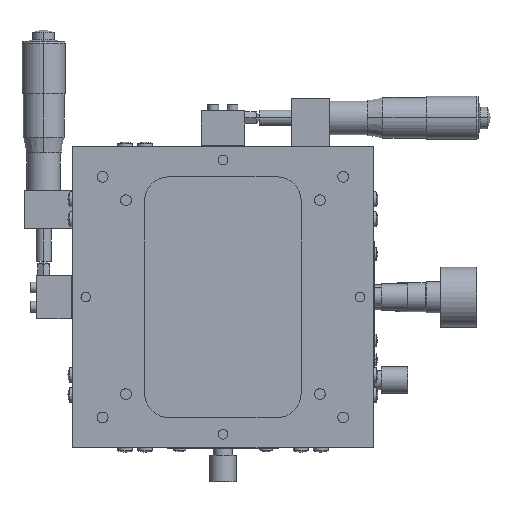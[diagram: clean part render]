
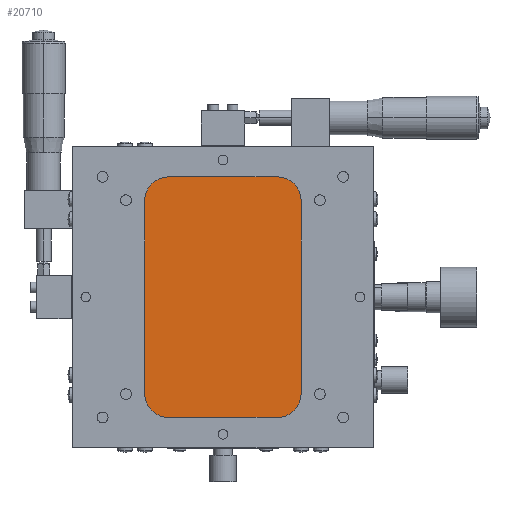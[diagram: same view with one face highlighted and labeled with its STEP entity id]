
A CAD part, front view. The second image highlights one B-rep face of the part: STEP entity #20710.
In plain terms, the highlighted planar face has unit normal (0, -1, 0).
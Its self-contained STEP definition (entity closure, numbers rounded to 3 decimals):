
#1589 = EDGE_CURVE ( 'NONE', #24473, #24574, #24670, .T. ) ;
#1590 = EDGE_CURVE ( 'NONE', #24574, #24220, #13912, .T. ) ;
#1591 = EDGE_CURVE ( 'NONE', #24220, #13616, #24676, .T. ) ;
#1592 = EDGE_CURVE ( 'NONE', #13616, #24311, #13915, .T. ) ;
#1593 = EDGE_CURVE ( 'NONE', #24311, #24600, #24682, .T. ) ;
#1594 = EDGE_CURVE ( 'NONE', #24600, #24246, #13918, .T. ) ;
#1595 = EDGE_CURVE ( 'NONE', #24246, #24631, #24688, .T. ) ;
#1596 = EDGE_CURVE ( 'NONE', #24631, #24473, #13921, .T. ) ;
#6183 = CARTESIAN_POINT ( 'NONE',  ( -22.5, 0.5, -12.5 ) ) ;
#6210 = CARTESIAN_POINT ( 'NONE',  ( 22.5, 0.5, -112.5 ) ) ;
#6277 = CARTESIAN_POINT ( 'NONE',  ( 32.5, 0.5, -22.5 ) ) ;
#6428 = EDGE_LOOP ( 'NONE', ( #8719, #8811, #8576, #9237, #9136, #8797, #9095, #9216 ) ) ;
#8576 = ORIENTED_EDGE ( 'NONE', *, *, #1594, .F. ) ;
#8719 = ORIENTED_EDGE ( 'NONE', *, *, #1596, .F. ) ;
#8797 = ORIENTED_EDGE ( 'NONE', *, *, #1591, .F. ) ;
#8811 = ORIENTED_EDGE ( 'NONE', *, *, #1595, .F. ) ;
#9095 = ORIENTED_EDGE ( 'NONE', *, *, #1590, .F. ) ;
#9136 = ORIENTED_EDGE ( 'NONE', *, *, #1592, .F. ) ;
#9216 = ORIENTED_EDGE ( 'NONE', *, *, #1589, .F. ) ;
#9237 = ORIENTED_EDGE ( 'NONE', *, *, #1593, .F. ) ;
#9888 = AXIS2_PLACEMENT_3D ( 'NONE', #18355, #18361, #18362 ) ;
#13616 = VERTEX_POINT ( 'NONE', #22836 ) ;
#13911 = VECTOR ( 'NONE', #24675, 1000. ) ;
#13912 = CIRCLE ( 'NONE', #13916, 10. ) ;
#13914 = VECTOR ( 'NONE', #24681, 1000. ) ;
#13915 = CIRCLE ( 'NONE', #13919, 10. ) ;
#13916 = AXIS2_PLACEMENT_3D ( 'NONE', #24677, #24678, #24679 ) ;
#13917 = VECTOR ( 'NONE', #24687, 1000. ) ;
#13918 = CIRCLE ( 'NONE', #13922, 10. ) ;
#13919 = AXIS2_PLACEMENT_3D ( 'NONE', #24683, #24684, #24685 ) ;
#13920 = VECTOR ( 'NONE', #24693, 1000. ) ;
#13921 = CIRCLE ( 'NONE', #13925, 10. ) ;
#13922 = AXIS2_PLACEMENT_3D ( 'NONE', #24689, #24690, #24691 ) ;
#13925 = AXIS2_PLACEMENT_3D ( 'NONE', #24697, #24698, #24699 ) ;
#17202 = CARTESIAN_POINT ( 'NONE',  ( -32.5, 0.5, -102.5 ) ) ;
#17303 = CARTESIAN_POINT ( 'NONE',  ( -32.5, 0.5, -22.5 ) ) ;
#17329 = CARTESIAN_POINT ( 'NONE',  ( 32.5, 0.5, -102.5 ) ) ;
#17360 = CARTESIAN_POINT ( 'NONE',  ( -22.5, 0.5, -112.5 ) ) ;
#18355 = CARTESIAN_POINT ( 'NONE',  ( -22.5, 0.5, -102.5 ) ) ;
#18357 = FACE_OUTER_BOUND ( 'NONE', #6428, .T. ) ;
#18358 = PLANE ( 'NONE',  #9888 ) ;
#18361 = DIRECTION ( 'NONE',  ( 0., -1., 0. ) ) ;
#18362 = DIRECTION ( 'NONE',  ( 0., 0., 1. ) ) ;
#20710 = ADVANCED_FACE ( 'NONE', ( #18357 ), #18358, .T. ) ;
#22836 = CARTESIAN_POINT ( 'NONE',  ( 22.5, 0.5, -12.5 ) ) ;
#24220 = VERTEX_POINT ( 'NONE', #6183 ) ;
#24246 = VERTEX_POINT ( 'NONE', #6210 ) ;
#24311 = VERTEX_POINT ( 'NONE', #6277 ) ;
#24473 = VERTEX_POINT ( 'NONE', #17202 ) ;
#24574 = VERTEX_POINT ( 'NONE', #17303 ) ;
#24600 = VERTEX_POINT ( 'NONE', #17329 ) ;
#24631 = VERTEX_POINT ( 'NONE', #17360 ) ;
#24668 = CARTESIAN_POINT ( 'NONE',  ( -32.5, 0.5, -102.5 ) ) ;
#24670 = LINE ( 'NONE', #24668, #13911 ) ;
#24674 = CARTESIAN_POINT ( 'NONE',  ( 22.5, 0.5, -12.5 ) ) ;
#24675 = DIRECTION ( 'NONE',  ( 0., 0., 1. ) ) ;
#24676 = LINE ( 'NONE', #24674, #13914 ) ;
#24677 = CARTESIAN_POINT ( 'NONE',  ( -22.5, 0.5, -22.5 ) ) ;
#24678 = DIRECTION ( 'NONE',  ( 0., 1., 0. ) ) ;
#24679 = DIRECTION ( 'NONE',  ( 0., 0., 1. ) ) ;
#24680 = CARTESIAN_POINT ( 'NONE',  ( 32.5, 0.5, -102.5 ) ) ;
#24681 = DIRECTION ( 'NONE',  ( 1., 0., 0. ) ) ;
#24682 = LINE ( 'NONE', #24680, #13917 ) ;
#24683 = CARTESIAN_POINT ( 'NONE',  ( 22.5, 0.5, -22.5 ) ) ;
#24684 = DIRECTION ( 'NONE',  ( 0., 1., 0. ) ) ;
#24685 = DIRECTION ( 'NONE',  ( 0., 0., 1. ) ) ;
#24686 = CARTESIAN_POINT ( 'NONE',  ( 22.5, 0.5, -112.5 ) ) ;
#24687 = DIRECTION ( 'NONE',  ( 0., 0., -1. ) ) ;
#24688 = LINE ( 'NONE', #24686, #13920 ) ;
#24689 = CARTESIAN_POINT ( 'NONE',  ( 22.5, 0.5, -102.5 ) ) ;
#24690 = DIRECTION ( 'NONE',  ( 0., 1., 0. ) ) ;
#24691 = DIRECTION ( 'NONE',  ( 0., 0., 1. ) ) ;
#24693 = DIRECTION ( 'NONE',  ( -1., 0., 0. ) ) ;
#24697 = CARTESIAN_POINT ( 'NONE',  ( -22.5, 0.5, -102.5 ) ) ;
#24698 = DIRECTION ( 'NONE',  ( 0., 1., 0. ) ) ;
#24699 = DIRECTION ( 'NONE',  ( 0., 0., 1. ) ) ;
